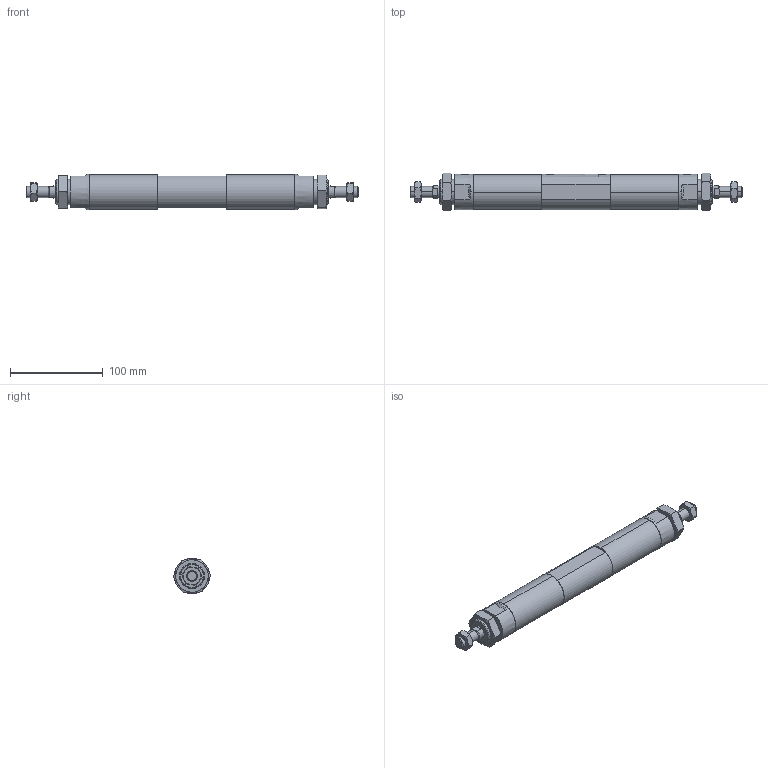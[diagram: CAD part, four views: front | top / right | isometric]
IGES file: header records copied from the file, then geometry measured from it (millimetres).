
Start section: SolidWorks IGES file using analytic representation for surfaces
Global section: file name: C:\Users\Toshiba\Desktop\JGD7-32-25-25-N.IGS; native system: SolidWorks 2014; preprocessor: SolidWorks 2014; author: Toshiba; date: 160419.152428; units: millimetre
Bounding box: 358 x 40.4 x 38 mm (x, y, z)
Surface area: 57916.2 mm2 (no closed solid volume)
Topology: 0 solids, 0 shells, 172 faces, 2940 edges, 2932 vertices
Faces by surface type: bspline 108, revolution 64
